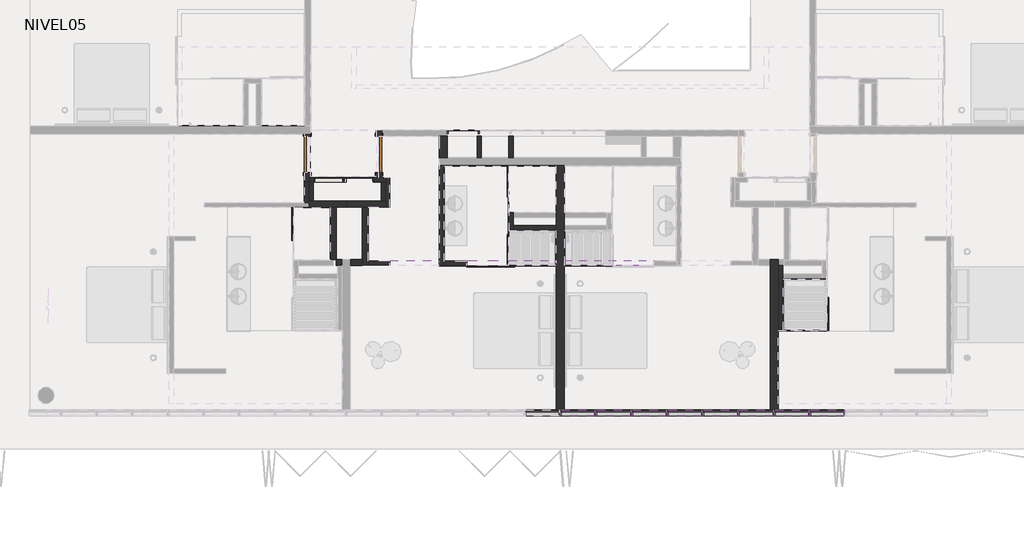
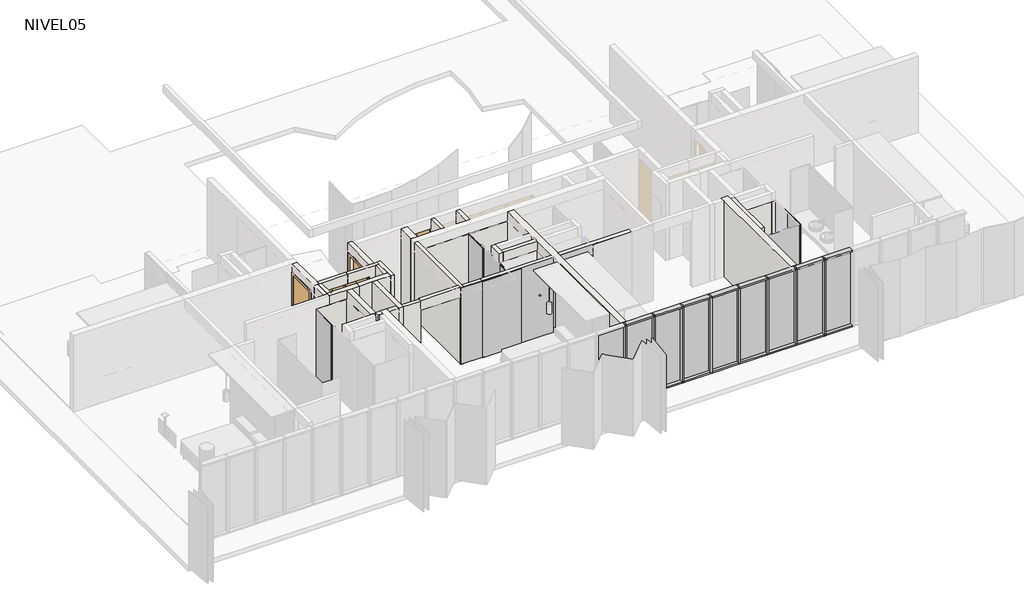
# One storey, part 2 of 8: 39 walls, 25 members, 19 plates, 5 doors.
"""IFC4 building model written with IfcOpenShell, lengths in millimetres."""

from ifc_helpers import new_model, si_unit, frame, origin, place, context, project, spatial, polyline, outline, extrude, faceted_brep, transform, mapped, element, save
from components import m_single_flush_910x_224_a4f79d59, m_single_flush_910x_224_d199ccfa, puerta_closet_shaft_75_x_232cm_9b8c6cb1, puerta_closet_shaft_75_x_232cm_f7ce9964, puerta_closet_shaft_80_x_232cm_003f94e8, rectangular_mullion_50_x_150mm_324a6438, rectangular_mullion_50_x_150mm_33c2bde1, panel_corredera_cr_panel_corredera_e449a94a, panel_corredera_cr_panel_corredera_4796692a, panel_corredera_cr_panel_corredera_42e60b83, panel_corredera_cr_panel_corredera_db6cee18, panel_corredera_cr_panel_corredera_0b5135b5, system_panel_cr_shower_b944c943, system_panel_cr_shower_306accba, system_panel_cr_shower_c062e60c, system_panel_cr_shower_685ec66b, system_panel_cr_shower_d0c7b907, system_panel_glazed_6ccc6dc1

model = new_model("IFC4")

# Units and contexts
model_context = context("Model", 3, world=origin())
ifc_project = project(units=[si_unit("LENGTHUNIT", "METRE", prefix="MILLI")], contexts=[model_context])

# Site, building, storey
site = spatial("IfcSite", under=ifc_project)
building = spatial("IfcBuilding", under=site)
storey = spatial("IfcBuildingStorey", under=building, Name="NIVEL05", Elevation=10660.0)

# Doors
placement = place(None, origin())
m_single_flush_910x_224_shape = m_single_flush_910x_224_a4f79d59(model_context)
element("IfcDoor", 1, ObjectType="M_Single-Flush : 910x 224", at=placement, inside=storey, context=model_context, shape_type="MappedRepresentation", body=[
    mapped(m_single_flush_910x_224_shape, transform((-13568.5934748, -883.5860759, 10660.0), x_axis=(0.0, 1.0, 0.0), y_axis=(-1.0, 0.0, 0.0), z_axis=(0.0, 0.0, 1.0))),
])
m_single_flush_910x_224_2_shape = m_single_flush_910x_224_d199ccfa(model_context)
element("IfcDoor", 2, ObjectType="M_Single-Flush : 910x 224", at=placement, inside=storey, context=model_context, shape_type="MappedRepresentation", body=[
    mapped(m_single_flush_910x_224_2_shape, transform((-11758.5934748, -883.5860759, 10660.0), x_axis=(0.0, 1.0, 0.0), y_axis=(-1.0, 0.0, 0.0), z_axis=(0.0, 0.0, 1.0))),
])
puerta_closet_shaft_75_x_232cm_shape = puerta_closet_shaft_75_x_232cm_9b8c6cb1(model_context)
element("IfcDoor", 3, ObjectType="PUERTA CLOSET SHAFT : 75 x 232cm", at=placement, inside=storey, context=model_context, shape_type="MappedRepresentation", body=[
    mapped(puerta_closet_shaft_75_x_232cm_shape, transform((-11887.061904, -1521.0860759, 10660.0), x_axis=(1.0, 0.0, 0.0), y_axis=(0.0, 1.0, 0.0), z_axis=(0.0, 0.0, 1.0))),
])
puerta_closet_shaft_75_x_232cm_2_shape = puerta_closet_shaft_75_x_232cm_f7ce9964(model_context)
element("IfcDoor", 4, ObjectType="PUERTA CLOSET SHAFT : 75 x 232cm", at=placement, inside=storey, context=model_context, shape_type="MappedRepresentation", body=[
    mapped(puerta_closet_shaft_75_x_232cm_2_shape, transform((-13420.1250457, -1521.0860759, 10660.0), x_axis=(-1.0, 0.0, 0.0), y_axis=(0.0, -1.0, 0.0), z_axis=(0.0, 0.0, 1.0))),
])
puerta_closet_shaft_80_x_232cm_shape = puerta_closet_shaft_80_x_232cm_003f94e8(model_context)
element("IfcDoor", 5, ObjectType="PUERTA CLOSET SHAFT : 80 x 232cm", at=placement, inside=storey, context=model_context, shape_type="MappedRepresentation", body=[
    mapped(puerta_closet_shaft_80_x_232cm_shape, transform((-8492.061904, -341.0860759, 10660.0), x_axis=(1.0, 0.0, 0.0), y_axis=(0.0, 1.0, 0.0), z_axis=(0.0, 0.0, 1.0))),
])

# Members
rectangular_mullion_50_x_150mm_shape = rectangular_mullion_50_x_150mm_324a6438(model_context)
element("IfcMember", 6, ObjectType="Rectangular Mullion : 50 x 150mm", at=placement, inside=storey, context=model_context, shape_type="MappedRepresentation", body=[
    mapped(rectangular_mullion_50_x_150mm_shape, transform((-858.5934748, -7416.0860759, 13210.0), x_axis=(0.0, 0.0, 1.0), y_axis=(0.0, 1.0, 0.0), z_axis=(-1.0, 0.0, 0.0))),
])
element("IfcMember", 7, ObjectType="Rectangular Mullion : 50 x 150mm", at=placement, inside=storey, context=model_context, shape_type="MappedRepresentation", body=[
    mapped(rectangular_mullion_50_x_150mm_shape, transform((-1758.5934748, -7416.0860759, 13210.0), x_axis=(0.0, 0.0, 1.0), y_axis=(0.0, 1.0, 0.0), z_axis=(-1.0, 0.0, 0.0))),
])
element("IfcMember", 8, ObjectType="Rectangular Mullion : 50 x 150mm", at=placement, inside=storey, context=model_context, shape_type="MappedRepresentation", body=[
    mapped(rectangular_mullion_50_x_150mm_shape, transform((-2658.5934748, -7416.0860759, 13210.0), x_axis=(0.0, 0.0, 1.0), y_axis=(0.0, 1.0, 0.0), z_axis=(-1.0, 0.0, 0.0))),
])
element("IfcMember", 9, ObjectType="Rectangular Mullion : 50 x 150mm", at=placement, inside=storey, context=model_context, shape_type="MappedRepresentation", body=[
    mapped(rectangular_mullion_50_x_150mm_shape, transform((-3558.5934748, -7416.0860759, 13210.0), x_axis=(0.0, 0.0, 1.0), y_axis=(0.0, 1.0, 0.0), z_axis=(-1.0, 0.0, 0.0))),
])
element("IfcMember", 10, ObjectType="Rectangular Mullion : 50 x 150mm", at=placement, inside=storey, context=model_context, shape_type="MappedRepresentation", body=[
    mapped(rectangular_mullion_50_x_150mm_shape, transform((-4458.5934748, -7416.0860759, 13210.0), x_axis=(0.0, 0.0, 1.0), y_axis=(0.0, 1.0, 0.0), z_axis=(-1.0, 0.0, 0.0))),
])
element("IfcMember", 11, ObjectType="Rectangular Mullion : 50 x 150mm", at=placement, inside=storey, context=model_context, shape_type="MappedRepresentation", body=[
    mapped(rectangular_mullion_50_x_150mm_shape, transform((-5358.5934748, -7416.0860759, 13210.0), x_axis=(0.0, 0.0, 1.0), y_axis=(0.0, 1.0, 0.0), z_axis=(-1.0, 0.0, 0.0))),
])
element("IfcMember", 12, ObjectType="Rectangular Mullion : 50 x 150mm", at=placement, inside=storey, context=model_context, shape_type="MappedRepresentation", body=[
    mapped(rectangular_mullion_50_x_150mm_shape, transform((-6258.5934748, -7416.0860759, 13210.0), x_axis=(0.0, 0.0, 1.0), y_axis=(0.0, 1.0, 0.0), z_axis=(-1.0, 0.0, 0.0))),
])
element("IfcMember", 13, ObjectType="Rectangular Mullion : 50 x 150mm", at=placement, inside=storey, context=model_context, shape_type="MappedRepresentation", body=[
    mapped(rectangular_mullion_50_x_150mm_shape, transform((-7158.5934748, -7416.0860759, 13210.0), x_axis=(0.0, 0.0, 1.0), y_axis=(0.0, 1.0, 0.0), z_axis=(-1.0, 0.0, 0.0))),
])
element("IfcMember", 14, ObjectType="Rectangular Mullion : 50 x 150mm", at=placement, inside=storey, context=model_context, shape_type="MappedRepresentation", body=[
    mapped(rectangular_mullion_50_x_150mm_shape, transform((-8.5934748, -7416.0860759, 10640.0), x_axis=(0.0, 0.0, -1.0), y_axis=(0.0, 1.0, 0.0), z_axis=(1.0, 0.0, 0.0))),
])
element("IfcMember", 15, ObjectType="Rectangular Mullion : 50 x 150mm", at=placement, inside=storey, context=model_context, shape_type="MappedRepresentation", body=[
    mapped(rectangular_mullion_50_x_150mm_shape, transform((-908.5934748, -7416.0860759, 10640.0), x_axis=(0.0, 0.0, -1.0), y_axis=(0.0, 1.0, 0.0), z_axis=(1.0, 0.0, 0.0))),
])
element("IfcMember", 16, ObjectType="Rectangular Mullion : 50 x 150mm", at=placement, inside=storey, context=model_context, shape_type="MappedRepresentation", body=[
    mapped(rectangular_mullion_50_x_150mm_shape, transform((-1808.5934748, -7416.0860759, 10640.0), x_axis=(0.0, 0.0, -1.0), y_axis=(0.0, 1.0, 0.0), z_axis=(1.0, 0.0, 0.0))),
])
element("IfcMember", 17, ObjectType="Rectangular Mullion : 50 x 150mm", at=placement, inside=storey, context=model_context, shape_type="MappedRepresentation", body=[
    mapped(rectangular_mullion_50_x_150mm_shape, transform((-2708.5934748, -7416.0860759, 10640.0), x_axis=(0.0, 0.0, -1.0), y_axis=(0.0, 1.0, 0.0), z_axis=(1.0, 0.0, 0.0))),
])
element("IfcMember", 18, ObjectType="Rectangular Mullion : 50 x 150mm", at=placement, inside=storey, context=model_context, shape_type="MappedRepresentation", body=[
    mapped(rectangular_mullion_50_x_150mm_shape, transform((-3608.5934748, -7416.0860759, 10640.0), x_axis=(0.0, 0.0, -1.0), y_axis=(0.0, 1.0, 0.0), z_axis=(1.0, 0.0, 0.0))),
])
element("IfcMember", 19, ObjectType="Rectangular Mullion : 50 x 150mm", at=placement, inside=storey, context=model_context, shape_type="MappedRepresentation", body=[
    mapped(rectangular_mullion_50_x_150mm_shape, transform((-4508.5934748, -7416.0860759, 10640.0), x_axis=(0.0, 0.0, -1.0), y_axis=(0.0, 1.0, 0.0), z_axis=(1.0, 0.0, 0.0))),
])
element("IfcMember", 20, ObjectType="Rectangular Mullion : 50 x 150mm", at=placement, inside=storey, context=model_context, shape_type="MappedRepresentation", body=[
    mapped(rectangular_mullion_50_x_150mm_shape, transform((-5408.5934748, -7416.0860759, 10640.0), x_axis=(0.0, 0.0, -1.0), y_axis=(0.0, 1.0, 0.0), z_axis=(1.0, 0.0, 0.0))),
])
element("IfcMember", 21, ObjectType="Rectangular Mullion : 50 x 150mm", at=placement, inside=storey, context=model_context, shape_type="MappedRepresentation", body=[
    mapped(rectangular_mullion_50_x_150mm_shape, transform((-6308.5934748, -7416.0860759, 10640.0), x_axis=(0.0, 0.0, -1.0), y_axis=(0.0, 1.0, 0.0), z_axis=(1.0, 0.0, 0.0))),
])
element("IfcMember", 22, ObjectType="Rectangular Mullion : 50 x 150mm", at=placement, inside=storey, context=model_context, shape_type="MappedRepresentation", body=[
    mapped(rectangular_mullion_50_x_150mm_shape, transform((-7208.5934748, -7416.0860759, 10640.0), x_axis=(0.0, 0.0, -1.0), y_axis=(0.0, 1.0, 0.0), z_axis=(1.0, 0.0, 0.0))),
])
rectangular_mullion_50_x_150mm_2_shape = rectangular_mullion_50_x_150mm_33c2bde1(model_context)
element("IfcMember", 23, ObjectType="Rectangular Mullion : 50 x 150mm", at=placement, inside=storey, context=model_context, shape_type="MappedRepresentation", body=[
    mapped(rectangular_mullion_50_x_150mm_2_shape, transform((-883.5934748, -7416.0860759, 10640.0), x_axis=(-1.0, 0.0, 0.0), y_axis=(0.0, 1.0, 0.0), z_axis=(0.0, 0.0, -1.0))),
])
element("IfcMember", 24, ObjectType="Rectangular Mullion : 50 x 150mm", at=placement, inside=storey, context=model_context, shape_type="MappedRepresentation", body=[
    mapped(rectangular_mullion_50_x_150mm_2_shape, transform((-1783.5934748, -7416.0860759, 10640.0), x_axis=(-1.0, 0.0, 0.0), y_axis=(0.0, 1.0, 0.0), z_axis=(0.0, 0.0, -1.0))),
])
element("IfcMember", 25, ObjectType="Rectangular Mullion : 50 x 150mm", at=placement, inside=storey, context=model_context, shape_type="MappedRepresentation", body=[
    mapped(rectangular_mullion_50_x_150mm_2_shape, transform((-2683.5934748, -7416.0860759, 10640.0), x_axis=(-1.0, 0.0, 0.0), y_axis=(0.0, 1.0, 0.0), z_axis=(0.0, 0.0, -1.0))),
])
element("IfcMember", 26, ObjectType="Rectangular Mullion : 50 x 150mm", at=placement, inside=storey, context=model_context, shape_type="MappedRepresentation", body=[
    mapped(rectangular_mullion_50_x_150mm_2_shape, transform((-3583.5934748, -7416.0860759, 10640.0), x_axis=(-1.0, 0.0, 0.0), y_axis=(0.0, 1.0, 0.0), z_axis=(0.0, 0.0, -1.0))),
])
element("IfcMember", 27, ObjectType="Rectangular Mullion : 50 x 150mm", at=placement, inside=storey, context=model_context, shape_type="MappedRepresentation", body=[
    mapped(rectangular_mullion_50_x_150mm_2_shape, transform((-4483.5934748, -7416.0860759, 10640.0), x_axis=(-1.0, 0.0, 0.0), y_axis=(0.0, 1.0, 0.0), z_axis=(0.0, 0.0, -1.0))),
])
element("IfcMember", 28, ObjectType="Rectangular Mullion : 50 x 150mm", at=placement, inside=storey, context=model_context, shape_type="MappedRepresentation", body=[
    mapped(rectangular_mullion_50_x_150mm_2_shape, transform((-5383.5934748, -7416.0860759, 10640.0), x_axis=(-1.0, 0.0, 0.0), y_axis=(0.0, 1.0, 0.0), z_axis=(0.0, 0.0, -1.0))),
])
element("IfcMember", 29, ObjectType="Rectangular Mullion : 50 x 150mm", at=placement, inside=storey, context=model_context, shape_type="MappedRepresentation", body=[
    mapped(rectangular_mullion_50_x_150mm_2_shape, transform((-6283.5934748, -7416.0860759, 10640.0), x_axis=(-1.0, 0.0, 0.0), y_axis=(0.0, 1.0, 0.0), z_axis=(0.0, 0.0, -1.0))),
])
element("IfcMember", 30, ObjectType="Rectangular Mullion : 50 x 150mm", at=placement, inside=storey, context=model_context, shape_type="MappedRepresentation", body=[
    mapped(rectangular_mullion_50_x_150mm_2_shape, transform((-7183.5934748, -7416.0860759, 10640.0), x_axis=(-1.0, 0.0, 0.0), y_axis=(0.0, 1.0, 0.0), z_axis=(0.0, 0.0, -1.0))),
])

# Plates
panel_corredera_cr_panel_corredera_shape = panel_corredera_cr_panel_corredera_e449a94a(model_context)
element("IfcPlate", 31, ObjectType="PANEL CORREDERA : CR_PANEL CORREDERA", at=placement, inside=storey, context=model_context, shape_type="MappedRepresentation", body=[
    mapped(panel_corredera_cr_panel_corredera_shape, transform((-13913.6434748, -2560.8259695, 10660.0), x_axis=(0.0, -1.0, 0.0), y_axis=(1.0, 0.0, 0.0), z_axis=(0.0, 0.0, 1.0))),
])
panel_corredera_cr_panel_corredera_2_shape = panel_corredera_cr_panel_corredera_4796692a(model_context)
element("IfcPlate", 32, ObjectType="PANEL CORREDERA : CR_PANEL CORREDERA", at=placement, inside=storey, context=model_context, shape_type="MappedRepresentation", body=[
    mapped(panel_corredera_cr_panel_corredera_2_shape, transform((-8483.5947993, -3371.0862189, 10660.0), x_axis=(0.0, 1.0, 0.0), y_axis=(-1.0, 0.0, 0.0), z_axis=(0.0, 0.0, 1.0))),
])
panel_corredera_cr_panel_corredera_3_shape = panel_corredera_cr_panel_corredera_42e60b83(model_context)
element("IfcPlate", 33, ObjectType="PANEL CORREDERA : CR_PANEL CORREDERA", at=placement, inside=storey, context=model_context, shape_type="MappedRepresentation", body=[
    mapped(panel_corredera_cr_panel_corredera_3_shape, transform((-453.5434748, -4991.5697221, 10660.0), x_axis=(0.0, 1.0, 0.0), y_axis=(-1.0, 0.0, 0.0), z_axis=(0.0, 0.0, 1.0))),
])
panel_corredera_cr_panel_corredera_4_shape = panel_corredera_cr_panel_corredera_db6cee18(model_context)
element("IfcPlate", 34, ObjectType="PANEL CORREDERA : CR_PANEL CORREDERA", at=placement, inside=storey, context=model_context, shape_type="MappedRepresentation", body=[
    mapped(panel_corredera_cr_panel_corredera_4_shape, transform((-8483.5947993, -1491.0860759, 10660.0), x_axis=(0.0, -1.0, 0.0), y_axis=(1.0, 0.0, 0.0), z_axis=(0.0, 0.0, 1.0))),
])
panel_corredera_cr_panel_corredera_5_shape = panel_corredera_cr_panel_corredera_0b5135b5(model_context)
element("IfcPlate", 35, ObjectType="PANEL CORREDERA : CR_PANEL CORREDERA", at=placement, inside=storey, context=model_context, shape_type="MappedRepresentation", body=[
    mapped(panel_corredera_cr_panel_corredera_5_shape, transform((-9013.5934748, -3686.0862189, 10660.0), x_axis=(1.0, 0.0, 0.0), y_axis=(0.0, 1.0, 0.0), z_axis=(0.0, 0.0, 1.0))),
])
system_panel_cr_shower_shape = system_panel_cr_shower_b944c943(model_context)
element("IfcPlate", 36, ObjectType="System Panel : CR-SHOWER", at=placement, inside=storey, context=model_context, shape_type="MappedRepresentation", body=[
    mapped(system_panel_cr_shower_shape, transform((-1068.5684748, -5336.1362189, 10660.0), x_axis=(1.0, 0.0, 0.0), y_axis=(0.0, 1.0, 0.0), z_axis=(0.0, 0.0, 1.0))),
])
system_panel_cr_shower_2_shape = system_panel_cr_shower_306accba(model_context)
element("IfcPlate", 37, ObjectType="System Panel : CR-SHOWER", at=placement, inside=storey, context=model_context, shape_type="MappedRepresentation", body=[
    mapped(system_panel_cr_shower_2_shape, transform((-9888.5934748, -3686.0862189, 10660.0), x_axis=(-1.0, 0.0, 0.0), y_axis=(0.0, -1.0, 0.0), z_axis=(0.0, 0.0, 1.0))),
])
system_panel_cr_shower_3_shape = system_panel_cr_shower_c062e60c(model_context)
element("IfcPlate", 38, ObjectType="System Panel : CR-SHOWER", at=placement, inside=storey, context=model_context, shape_type="MappedRepresentation", body=[
    mapped(system_panel_cr_shower_3_shape, transform((-8483.5947993, -2436.0861474, 10660.0), x_axis=(0.0, 1.0, 0.0), y_axis=(-1.0, 0.0, 0.0), z_axis=(0.0, 0.0, 1.0))),
])
system_panel_cr_shower_4_shape = system_panel_cr_shower_685ec66b(model_context)
element("IfcPlate", 39, ObjectType="System Panel : CR-SHOWER", at=placement, inside=storey, context=model_context, shape_type="MappedRepresentation", body=[
    mapped(system_panel_cr_shower_4_shape, transform((-6483.5934748, -3686.0862189, 10660.0), x_axis=(1.0, 0.0, 0.0), y_axis=(0.0, 1.0, 0.0), z_axis=(0.0, 0.0, 1.0))),
])
system_panel_cr_shower_5_shape = system_panel_cr_shower_d0c7b907(model_context)
element("IfcPlate", 40, ObjectType="System Panel : CR-SHOWER", at=placement, inside=storey, context=model_context, shape_type="MappedRepresentation", body=[
    mapped(system_panel_cr_shower_5_shape, transform((-7883.5934748, -3686.0862189, 10660.0), x_axis=(-1.0, 0.0, 0.0), y_axis=(0.0, -1.0, 0.0), z_axis=(0.0, 0.0, 1.0))),
])
system_panel_glazed_shape = system_panel_glazed_6ccc6dc1(model_context)
element("IfcPlate", 41, ObjectType="System Panel : Glazed", at=placement, inside=storey, context=model_context, shape_type="MappedRepresentation", body=[
    mapped(system_panel_glazed_shape, transform((-433.5934748, -7416.0860759, 10690.0), x_axis=(-1.0, 0.0, 0.0), y_axis=(0.0, -1.0, 0.0), z_axis=(0.0, 0.0, 1.0))),
])
element("IfcPlate", 42, ObjectType="System Panel : Glazed", at=placement, inside=storey, context=model_context, shape_type="MappedRepresentation", body=[
    mapped(system_panel_glazed_shape, transform((-1333.5934748, -7416.0860759, 10690.0), x_axis=(-1.0, 0.0, 0.0), y_axis=(0.0, -1.0, 0.0), z_axis=(0.0, 0.0, 1.0))),
])
element("IfcPlate", 43, ObjectType="System Panel : Glazed", at=placement, inside=storey, context=model_context, shape_type="MappedRepresentation", body=[
    mapped(system_panel_glazed_shape, transform((-2233.5934748, -7416.0860759, 10690.0), x_axis=(-1.0, 0.0, 0.0), y_axis=(0.0, -1.0, 0.0), z_axis=(0.0, 0.0, 1.0))),
])
element("IfcPlate", 44, ObjectType="System Panel : Glazed", at=placement, inside=storey, context=model_context, shape_type="MappedRepresentation", body=[
    mapped(system_panel_glazed_shape, transform((-3133.5934748, -7416.0860759, 10690.0), x_axis=(-1.0, 0.0, 0.0), y_axis=(0.0, -1.0, 0.0), z_axis=(0.0, 0.0, 1.0))),
])
element("IfcPlate", 45, ObjectType="System Panel : Glazed", at=placement, inside=storey, context=model_context, shape_type="MappedRepresentation", body=[
    mapped(system_panel_glazed_shape, transform((-4033.5934748, -7416.0860759, 10690.0), x_axis=(-1.0, 0.0, 0.0), y_axis=(0.0, -1.0, 0.0), z_axis=(0.0, 0.0, 1.0))),
])
element("IfcPlate", 46, ObjectType="System Panel : Glazed", at=placement, inside=storey, context=model_context, shape_type="MappedRepresentation", body=[
    mapped(system_panel_glazed_shape, transform((-4933.5934748, -7416.0860759, 10690.0), x_axis=(-1.0, 0.0, 0.0), y_axis=(0.0, -1.0, 0.0), z_axis=(0.0, 0.0, 1.0))),
])
element("IfcPlate", 47, ObjectType="System Panel : Glazed", at=placement, inside=storey, context=model_context, shape_type="MappedRepresentation", body=[
    mapped(system_panel_glazed_shape, transform((-5833.5934748, -7416.0860759, 10690.0), x_axis=(-1.0, 0.0, 0.0), y_axis=(0.0, -1.0, 0.0), z_axis=(0.0, 0.0, 1.0))),
])
element("IfcPlate", 48, ObjectType="System Panel : Glazed", at=placement, inside=storey, context=model_context, shape_type="MappedRepresentation", body=[
    mapped(system_panel_glazed_shape, transform((-6733.5934748, -7416.0860759, 10690.0), x_axis=(-1.0, 0.0, 0.0), y_axis=(0.0, -1.0, 0.0), z_axis=(0.0, 0.0, 1.0))),
])
element("IfcPlate", 49, ObjectType="System Panel : Glazed", at=placement, inside=storey, context=model_context, shape_type="MappedRepresentation", body=[
    mapped(system_panel_glazed_shape, transform((-7633.5934748, -7416.0860759, 10690.0), x_axis=(-1.0, 0.0, 0.0), y_axis=(0.0, -1.0, 0.0), z_axis=(0.0, 0.0, 1.0))),
])

# Walls
element("IfcWall", 50, ObjectType="SCV.TI.A.110.090.143.47.1", at=placement, inside=storey, context=model_context, shape_type="SweptSolid", body=[
    extrude(outline(polyline([(-9283.5934748, -966.0860759), (-9283.5934748, -416.0860759), (-9173.5934748, -416.0860759), (-9173.5934748, -966.0860759), (-9283.5934748, -966.0860759)])), frame((0.0, 0.0, 10640.0), z_axis=(0.0, 0.0, 1.0), x_axis=(1.0, 0.0, 0.0)), (0.0, 0.0, 1.0), 2570.0),
])
element("IfcWall", 51, ObjectType="REV-PORCELANATO_60*60", at=placement, inside=storey, context=model_context, shape_type="SweptSolid", body=[
    extrude(outline(polyline([(-7083.5934748, -3686.0862189), (-7083.5934748, -2806.0860759), (-7073.5934748, -2806.0860759), (-7073.5934748, -3686.0862189), (-7083.5934748, -3686.0862189)])), frame((0.0, 0.0, 10660.0), z_axis=(0.0, 0.0, 1.0), x_axis=(1.0, 0.0, 0.0)), (0.0, 0.0, 1.0), 2240.0),
])
element("IfcWall", 52, ObjectType="SCV.TI.A.110.090.143.47.1", at=placement, inside=storey, context=model_context, shape_type="SweptSolid", body=[
    extrude(outline(polyline([(-12033.5934748, -3571.0862189), (-11483.5934748, -3571.0862189), (-11483.5934748, -3681.0862189), (-12033.5934748, -3681.0862189), (-12033.5934748, -3571.0862189)])), frame((0.0, 0.0, 10660.0), z_axis=(0.0, 0.0, 1.0), x_axis=(1.0, 0.0, 0.0)), (0.0, 0.0, 1.0), 2550.0),
])
element("IfcWall", 53, ObjectType="SCV.TI.A.110.090.143.47.1", at=placement, inside=storey, context=model_context, shape_type="Brep", body=[
    faceted_brep([(-12589.1569667, -1466.0860759, 13210.0), (-11833.5934748, -1466.0860759, 13210.0), (-11683.5934748, -1466.0860759, 13210.0), (-11593.5934748, -1466.0860759, 13210.0), (-11593.5934748, -1466.0860759, 10660.0), (-11683.5934748, -1466.0860759, 10660.0), (-11833.5934748, -1466.0860759, 10660.0), (-11903.5934748, -1466.0860759, 10660.0), (-11903.5934748, -1466.0860759, 12900.0), (-12589.1569667, -1466.0860759, 12900.0), (-11593.5934748, -1576.0860759, 13210.0), (-11703.5934748, -1576.0860759, 13210.0), (-12589.1569667, -1576.0860759, 13210.0), (-12589.1569667, -1576.0860759, 12900.0), (-11903.5934748, -1576.0860759, 12900.0), (-11903.5934748, -1576.0860759, 10660.0), (-11593.5934748, -1576.0860759, 10660.0)], [[[0, 1, 2, 3, 4, 5, 6, 7, 8, 9]], [[10, 11, 12, 13, 14, 15, 16]], [[4, 16, 15, 7, 6, 5]], [[12, 0, 9, 13]], [[3, 2, 1, 0, 12, 11, 10]], [[8, 14, 13, 9]], [[14, 8, 7, 15]], [[4, 3, 10, 16]]]),
])
element("IfcWall", 54, ObjectType="SCV.TI.A.150.120.212.47.1", at=placement, inside=storey, context=model_context, shape_type="Brep", body=[
    faceted_brep([(-11833.5934748, -1466.0860759, 13210.0), (-11833.5934748, -266.0860759, 13210.0), (-11833.5934748, -266.0860759, 10660.0), (-11833.5934748, -426.0860759, 10660.0), (-11833.5934748, -426.0860759, 12860.0), (-11833.5934748, -1341.0860759, 12860.0), (-11833.5934748, -1341.0860759, 10660.0), (-11833.5934748, -1466.0860759, 10660.0), (-11683.5934748, -266.0860759, 13210.0), (-11683.5934748, -416.0860759, 13210.0), (-11683.5934748, -1466.0860759, 13210.0), (-11683.5934748, -1466.0860759, 10660.0), (-11683.5934748, -1341.0860759, 10660.0), (-11683.5934748, -1341.0860759, 12860.0), (-11683.5934748, -426.0860759, 12860.0), (-11683.5934748, -426.0860759, 10660.0), (-11683.5934748, -266.0860759, 10660.0)], [[[0, 1, 2, 3, 4, 5, 6, 7]], [[8, 9, 10, 11, 12, 13, 14, 15, 16]], [[2, 16, 15, 3]], [[11, 7, 6, 12]], [[1, 0, 10, 9, 8]], [[4, 14, 13, 5]], [[5, 13, 12, 6]], [[14, 4, 3, 15]], [[2, 1, 8, 16]], [[0, 7, 11, 10]]]),
])
element("IfcWall", 55, ObjectType="SCV.TI.A.110.090.143.47.1", at=placement, inside=storey, context=model_context, shape_type="Brep", body=[
    faceted_brep([(-10233.5934748, -1166.0860759, 10640.0), (-10233.5934748, -3686.0862189, 10640.0), (-10233.5934748, -3686.0862189, 12910.0), (-10233.5934748, -3686.0862189, 13210.0), (-10233.5934748, -1166.0860759, 13210.0), (-10123.5934748, -1166.0860759, 10640.0), (-10123.5934748, -1166.0860759, 13210.0), (-10123.5934748, -3576.0862189, 13210.0), (-10123.5934748, -3686.0862189, 13210.0), (-10123.5934748, -3686.0862189, 10660.0), (-10123.5934748, -3686.0862189, 10640.0)], [[[0, 1, 2, 3, 4]], [[5, 6, 7, 8, 9, 10]], [[1, 0, 5, 10]], [[4, 3, 8, 7, 6]], [[0, 4, 6, 5]], [[1, 10, 9, 8, 3, 2]]]),
])
element("IfcWall", 56, ObjectType="SCV.TI.A.150.120.212.47.1", at=placement, inside=storey, context=model_context, shape_type="Brep", body=[
    faceted_brep([(-11593.5934748, -2066.0860759, 10660.0), (-12583.5934748, -2066.0860759, 10660.0), (-12583.5934748, -2066.0860759, 13210.0), (-11593.5934748, -2066.0860759, 13210.0), (-11593.5934748, -2216.0860759, 10660.0), (-11593.5934748, -2216.0860759, 13210.0), (-12033.5934748, -2216.0860759, 13210.0), (-12183.5934748, -2216.0860759, 13210.0), (-12583.5934748, -2216.0860759, 13210.0), (-12583.5934748, -2216.0860759, 10660.0), (-12183.5934748, -2216.0860759, 10660.0), (-12033.5934748, -2216.0860759, 10660.0)], [[[0, 1, 2, 3]], [[4, 5, 6, 7, 8, 9, 10, 11]], [[1, 0, 4, 11, 10, 9]], [[2, 1, 9, 8]], [[3, 2, 8, 7, 6, 5]], [[0, 3, 5, 4]]]),
])
element("IfcWall", 57, ObjectType="SCV.TI.A.110.090.143.47.1", at=placement, inside=storey, context=model_context, shape_type="Brep", body=[
    faceted_brep([(-11593.5934748, -1466.0860759, 10640.0), (-11593.5934748, -2216.0860759, 10640.0), (-11593.5934748, -2216.0860759, 10660.0), (-11593.5934748, -2216.0860759, 13210.0), (-11593.5934748, -2066.0860759, 13210.0), (-11593.5934748, -1576.0860759, 13210.0), (-11593.5934748, -1466.0860759, 13210.0), (-11593.5934748, -1466.0860759, 10660.0), (-11483.5934748, -1466.0860759, 10640.0), (-11483.5934748, -1466.0860759, 13210.0), (-11483.5934748, -2216.0860759, 13210.0), (-11483.5934748, -2216.0860759, 10640.0)], [[[0, 1, 2, 3, 4, 5, 6, 7]], [[8, 9, 10, 11]], [[1, 0, 8, 11]], [[6, 5, 4, 3, 10, 9]], [[3, 2, 1, 11, 10]], [[0, 7, 6, 9, 8]]]),
])
element("IfcWall", 58, ObjectType="SCV.TI.A.120.120.122.46.2", at=placement, inside=storey, context=model_context, shape_type="SweptSolid", body=[
    extrude(outline(polyline([(-8363.5047394, -2676.0860759), (-7283.5934748, -2676.0860759), (-7283.5934748, -2796.0860759), (-8363.5047394, -2796.0860759), (-8363.5047394, -2676.0860759)])), frame((0.0, 0.0, 10660.0), z_axis=(0.0, 0.0, 1.0), x_axis=(1.0, 0.0, 0.0)), (0.0, 0.0, 1.0), 2550.0),
])
element("IfcWall", 59, ObjectType="SCV.TI.A.120.120.122.46.2", at=placement, inside=storey, context=model_context, shape_type="Brep", body=[
    faceted_brep([(-8363.5047394, -2796.0860759, 10660.0), (-8363.5047394, -2676.0860759, 10660.0), (-8363.5047394, -2476.0860759, 10660.0), (-8363.5047394, -2356.0860759, 10660.0), (-8363.5047394, -2356.0860759, 13210.0), (-8363.5047394, -2476.0860759, 13210.0), (-8363.5047394, -2676.0860759, 13210.0), (-8363.5047394, -2796.0860759, 13210.0), (-8483.5047394, -2796.0860759, 10660.0), (-8483.5047394, -2796.0860759, 13210.0), (-8483.5047394, -2356.0860759, 13210.0), (-8483.5047394, -2356.0860759, 10660.0)], [[[0, 1, 2, 3, 4, 5, 6, 7]], [[8, 9, 10, 11]], [[3, 2, 1, 0, 8, 11]], [[7, 6, 5, 4, 10, 9]], [[4, 3, 11, 10]], [[0, 7, 9, 8]]]),
])
element("IfcWall", 60, ObjectType="SCV.TI.A.110.090.143.47.1", at=placement, inside=storey, context=model_context, shape_type="Brep", body=[
    faceted_brep([(-9543.5934748, -3576.0862189, 10660.0), (-10123.5934748, -3576.0862189, 10660.0), (-10123.5934748, -3576.0862189, 13210.0), (-9543.5934748, -3576.0862189, 13210.0), (-9543.5934748, -3686.0862189, 10660.0), (-9543.5934748, -3686.0862189, 12910.0), (-9543.5934748, -3686.0862189, 13210.0), (-10123.5934748, -3686.0862189, 13210.0), (-10123.5934748, -3686.0862189, 10660.0)], [[[0, 1, 2, 3]], [[4, 5, 6, 7, 8]], [[1, 0, 4, 8]], [[3, 2, 7, 6]], [[0, 3, 6, 5, 4]], [[1, 8, 7, 2]]]),
])
element("IfcWall", 61, ObjectType="REV-PORCELANATO_60*60", at=placement, inside=storey, context=model_context, shape_type="Brep", body=[
    faceted_brep([(-9543.5934748, -3586.0862189, 10660.0), (-10113.5934748, -3586.0862189, 10660.0), (-10123.5934748, -3586.0862189, 10660.0), (-10123.5934748, -3586.0862189, 12900.0), (-10113.5934748, -3586.0862189, 12900.0), (-9543.5934748, -3586.0862189, 12900.0), (-9543.5934748, -3596.0862189, 10660.0), (-9543.5934748, -3596.0862189, 12900.0), (-10123.5934748, -3596.0862189, 12900.0), (-10123.5934748, -3596.0862189, 10660.0)], [[[0, 1, 2, 3, 4, 5]], [[6, 7, 8, 9]], [[2, 1, 0, 6, 9]], [[5, 4, 3, 8, 7]], [[0, 5, 7, 6]], [[3, 2, 9, 8]]]),
])
element("IfcWall", 62, ObjectType="REV-PORCELANATO_60*60", at=placement, inside=storey, context=model_context, shape_type="Brep", body=[
    faceted_brep([(-10113.5934748, -3586.0862189, 10660.0), (-10113.5934748, -1176.0860759, 10660.0), (-10113.5934748, -1166.0860759, 10660.0), (-10113.5934748, -1166.0860759, 12900.0), (-10113.5934748, -1176.0860759, 12900.0), (-10113.5934748, -3586.0862189, 12900.0), (-10123.5934748, -3586.0862189, 10660.0), (-10123.5934748, -3586.0862189, 12900.0), (-10123.5934748, -1166.0860759, 12900.0), (-10123.5934748, -1166.0860759, 10660.0)], [[[0, 1, 2, 3, 4, 5]], [[6, 7, 8, 9]], [[2, 1, 0, 6, 9]], [[5, 4, 3, 8, 7]], [[3, 2, 9, 8]], [[0, 5, 7, 6]]]),
])
element("IfcWall", 63, ObjectType="REV-PORCELANATO_60*60", at=placement, inside=storey, context=model_context, shape_type="Brep", body=[
    faceted_brep([(-10113.5934748, -1176.0860759, 10660.0), (-7293.5934748, -1176.0860759, 10660.0), (-7283.5934748, -1176.0860759, 10660.0), (-7283.5934748, -1176.0860759, 12900.0), (-7293.5934748, -1176.0860759, 12900.0), (-10113.5934748, -1176.0860759, 12900.0), (-10113.5934748, -1166.0860759, 10660.0), (-10113.5934748, -1166.0860759, 12900.0), (-7283.5934748, -1166.0860759, 12900.0), (-7283.5934748, -1166.0860759, 10660.0)], [[[0, 1, 2, 3, 4, 5]], [[6, 7, 8, 9]], [[2, 1, 0, 6, 9]], [[5, 4, 3, 8, 7]], [[3, 2, 9, 8]], [[0, 5, 7, 6]]]),
])
element("IfcWall", 64, ObjectType="REV-PORCELANATO_60*60", at=placement, inside=storey, context=model_context, shape_type="SweptSolid", body=[
    extrude(outline(polyline([(-7293.5934748, -3686.0862189), (-7293.5934748, -2806.0860759), (-7283.5934748, -2806.0860759), (-7283.5934748, -3686.0862189), (-7293.5934748, -3686.0862189)])), frame((0.0, 0.0, 10660.0), z_axis=(0.0, 0.0, 1.0), x_axis=(1.0, 0.0, 0.0)), (0.0, 0.0, 1.0), 2240.0),
])
element("IfcWall", 65, ObjectType="SCV.TI.A.110.090.143.47.1", at=placement, inside=storey, context=model_context, shape_type="Brep", body=[
    faceted_brep([(-13493.5934748, -1576.0860759, 10640.0), (-13423.5934748, -1576.0860759, 10640.0), (-12589.1569667, -1576.0860759, 10640.0), (-12589.1569667, -1576.0860759, 10660.0), (-13403.5934748, -1576.0860759, 10660.0), (-13403.5934748, -1576.0860759, 12900.0), (-12589.1569667, -1576.0860759, 12900.0), (-12589.1569667, -1576.0860759, 13210.0), (-13423.5934748, -1576.0860759, 13210.0), (-13493.5934748, -1576.0860759, 13210.0), (-12589.1569667, -1466.0860759, 10640.0), (-13493.5934748, -1466.0860759, 10640.0), (-13493.5934748, -1466.0860759, 13210.0), (-12589.1569667, -1466.0860759, 13210.0), (-12589.1569667, -1466.0860759, 12900.0), (-13403.5934748, -1466.0860759, 12900.0), (-13403.5934748, -1466.0860759, 10660.0), (-12589.1569667, -1466.0860759, 10660.0)], [[[0, 1, 2, 3, 4, 5, 6, 7, 8, 9]], [[10, 11, 12, 13, 14, 15, 16, 17]], [[2, 1, 0, 11, 10]], [[2, 10, 17, 3]], [[13, 7, 6, 14]], [[9, 8, 7, 13, 12]], [[5, 15, 14, 6]], [[16, 4, 3, 17]], [[4, 16, 15, 5]], [[0, 9, 12, 11]]]),
])
element("IfcWall", 66, ObjectType="SCV.TI.A.150.120.212.47.1", at=placement, inside=storey, context=model_context, shape_type="Brep", body=[
    faceted_brep([(-13643.5934748, -366.0860759, 10640.0), (-13643.5934748, -1576.0860759, 10640.0), (-13643.5934748, -1576.0860759, 13210.0), (-13643.5934748, -366.0860759, 13210.0), (-13643.5934748, -1341.0860759, 10660.0), (-13643.5934748, -426.0860759, 10660.0), (-13643.5934748, -426.0860759, 12860.0), (-13643.5934748, -1341.0860759, 12860.0), (-13493.5934748, -1576.0860759, 10640.0), (-13493.5934748, -1466.0860759, 10640.0), (-13493.5934748, -366.0860759, 10640.0), (-13493.5934748, -366.0860759, 13210.0), (-13493.5934748, -1466.0860759, 13210.0), (-13493.5934748, -1576.0860759, 13210.0), (-13493.5934748, -426.0860759, 10660.0), (-13493.5934748, -1341.0860759, 10660.0), (-13493.5934748, -1341.0860759, 12860.0), (-13493.5934748, -426.0860759, 12860.0), (-13533.5934748, -1576.0860759, 10640.0), (-13533.5934748, -1576.0860759, 13210.0)], [[[0, 1, 2, 3], [4, 5, 6, 7]], [[8, 9, 10, 11, 12, 13], [14, 15, 16, 17]], [[1, 0, 10, 9, 8, 18]], [[3, 2, 19, 13, 12, 11]], [[4, 15, 14, 5]], [[6, 17, 16, 7]], [[15, 4, 7, 16]], [[17, 6, 5, 14]], [[2, 1, 18, 8, 13, 19]], [[0, 3, 11, 10]]]),
])
element("IfcWall", 67, ObjectType="SCV.TI.A.150.120.212.47.1", at=placement, inside=storey, context=model_context, shape_type="Brep", body=[
    faceted_brep([(-13533.5934748, -2216.0860759, 10640.0), (-12983.5934748, -2216.0860759, 10640.0), (-12833.5934748, -2216.0860759, 10640.0), (-12583.5934748, -2216.0860759, 10640.0), (-12583.5934748, -2216.0860759, 13210.0), (-12833.5934748, -2216.0860759, 13210.0), (-12983.5934748, -2216.0860759, 13210.0), (-13533.5934748, -2216.0860759, 13210.0), (-13533.5934748, -2066.0860759, 10640.0), (-13533.5934748, -2066.0860759, 13210.0), (-12583.5934748, -2066.0860759, 13210.0), (-12583.5934748, -2066.0860759, 10640.0), (-13533.5934748, -2106.0860759, 10640.0), (-13533.5934748, -2106.0860759, 13210.0)], [[[0, 1, 2, 3, 4, 5, 6, 7]], [[8, 9, 10, 11]], [[3, 2, 1, 0, 12, 8, 11]], [[4, 3, 11, 10]], [[7, 6, 5, 4, 10, 9, 13]], [[0, 7, 13, 9, 8, 12]]]),
])
element("IfcWall", 68, ObjectType="REV-PORCELANATO_60*60", at=placement, inside=storey, context=model_context, shape_type="Brep", body=[
    faceted_brep([(-1553.5934748, -5336.1362189, 10660.0), (-1553.5934748, -4036.0862189, 10660.0), (-1553.5934748, -4026.0862189, 10660.0), (-1553.5934748, -4026.0862189, 12920.0), (-1553.5934748, -4036.0862189, 12920.0), (-1553.5934748, -5336.1362189, 12920.0), (-1563.5934748, -5336.1362189, 10660.0), (-1563.5934748, -5336.1362189, 12920.0), (-1563.5934748, -4026.0862189, 12920.0), (-1563.5934748, -4026.0862189, 10660.0)], [[[0, 1, 2, 3, 4, 5]], [[6, 7, 8, 9]], [[2, 1, 0, 6, 9]], [[5, 4, 3, 8, 7]], [[0, 5, 7, 6]], [[3, 2, 9, 8]]]),
])
element("IfcWall", 69, ObjectType="REV-PORCELANATO_60*60", at=placement, inside=storey, context=model_context, shape_type="SweptSolid", body=[
    extrude(outline(polyline([(-453.5434748, -4036.0862189), (-1553.5934748, -4036.0862189), (-1553.5934748, -4026.0862189), (-453.5434748, -4026.0862189), (-453.5434748, -4036.0862189)])), frame((0.0, 0.0, 10660.0), z_axis=(0.0, 0.0, 1.0), x_axis=(1.0, 0.0, 0.0)), (0.0, 0.0, 1.0), 2260.0),
])
element("IfcWall", 70, ObjectType="REV-PORCELANATO_60*60", at=placement, inside=storey, context=model_context, shape_type="SweptSolid", body=[
    extrude(outline(polyline([(-13913.6434748, -2216.0860759), (-12993.5934748, -2216.0860759), (-12993.5934748, -2226.0860759), (-13913.6434748, -2226.0860759), (-13913.6434748, -2216.0860759)])), frame((0.0, 0.0, 10660.0), z_axis=(0.0, 0.0, 1.0), x_axis=(1.0, 0.0, 0.0)), (0.0, 0.0, 1.0), 2260.0),
])
element("IfcWall", 71, ObjectType="REV-PORCELANATO_60*60", at=placement, inside=storey, context=model_context, shape_type="Brep", body=[
    faceted_brep([(-12983.5934748, -3556.0862189, 10660.0), (-12983.5934748, -2216.0860759, 10660.0), (-12983.5934748, -2216.0860759, 12920.0), (-12983.5934748, -3556.0862189, 12920.0), (-12993.5934748, -3556.0862189, 10660.0), (-12993.5934748, -3556.0862189, 12920.0), (-12993.5934748, -2226.0860759, 12920.0), (-12993.5934748, -2216.0860759, 12920.0), (-12993.5934748, -2216.0860759, 10660.0), (-12993.5934748, -2226.0860759, 10660.0)], [[[0, 1, 2, 3]], [[4, 5, 6, 7, 8, 9]], [[1, 0, 4, 9, 8]], [[3, 2, 7, 6, 5]], [[2, 1, 8, 7]], [[0, 3, 5, 4]]]),
])
element("IfcWall", 72, ObjectType="SCV.TI.A.110.090.143.47.1", at=placement, inside=storey, context=model_context, shape_type="Brep", body=[
    faceted_brep([(-11703.5934748, -1576.0860759, 10640.0), (-11703.5934748, -2066.0860759, 10640.0), (-11703.5934748, -2066.0860759, 13210.0), (-11703.5934748, -1576.0860759, 13210.0), (-11593.5934748, -1576.0860759, 10640.0), (-11593.5934748, -1576.0860759, 10660.0), (-11593.5934748, -1576.0860759, 13210.0), (-11593.5934748, -2066.0860759, 13210.0), (-11593.5934748, -2066.0860759, 10640.0)], [[[0, 1, 2, 3]], [[4, 5, 6, 7, 8]], [[1, 0, 4, 8]], [[2, 1, 8, 7]], [[3, 2, 7, 6]], [[0, 3, 6, 5, 4]]]),
])
element("IfcWall", 73, ObjectType="SCV.TI.A.110.090.143.47.1", at=placement, inside=storey, context=model_context, shape_type="Brep", body=[
    faceted_brep([(-13643.5934748, -1576.0860759, 10640.0), (-13643.5934748, -2106.0860759, 10640.0), (-13643.5934748, -2106.0860759, 13210.0), (-13643.5934748, -1576.0860759, 13210.0), (-13533.5934748, -1576.0860759, 10640.0), (-13533.5934748, -1576.0860759, 13210.0), (-13533.5934748, -2066.0860759, 13210.0), (-13533.5934748, -2106.0860759, 13210.0), (-13533.5934748, -2106.0860759, 10640.0), (-13533.5934748, -2066.0860759, 10640.0)], [[[0, 1, 2, 3]], [[4, 5, 6, 7, 8, 9]], [[1, 0, 4, 9, 8]], [[3, 2, 7, 6, 5]], [[0, 3, 5, 4]], [[2, 1, 8, 7]]]),
])
element("IfcWall", 74, ObjectType="SCV.TI.A.110.090.143.47.1", at=placement, inside=storey, context=model_context, shape_type="Brep", body=[
    faceted_brep([(-13533.5934748, -1576.0860759, 10640.0), (-13533.5934748, -2113.0860759, 10640.0), (-13533.5934748, -2113.0860759, 13210.0), (-13533.5934748, -1576.0860759, 13210.0), (-13423.5934748, -1576.0860759, 10640.0), (-13423.5934748, -1576.0860759, 13210.0), (-13423.5934748, -2113.0860759, 13210.0), (-13423.5934748, -2113.0860759, 10640.0), (-13493.5934748, -1576.0860759, 10640.0), (-13493.5934748, -1576.0860759, 13210.0)], [[[0, 1, 2, 3]], [[4, 5, 6, 7]], [[1, 0, 8, 4, 7]], [[2, 1, 7, 6]], [[3, 2, 6, 5, 9]], [[0, 3, 9, 5, 4, 8]]]),
])
element("IfcWall", 75, ObjectType="SCV.TI.A.110.090.143.47.1", at=placement, inside=storey, context=model_context, shape_type="SweptSolid", body=[
    extrude(outline(polyline([(-8483.5934748, -966.0860759), (-8483.5934748, -416.0860759), (-8373.5934748, -416.0860759), (-8373.5934748, -966.0860759), (-8483.5934748, -966.0860759)])), frame((0.0, 0.0, 10640.0), z_axis=(0.0, 0.0, 1.0), x_axis=(1.0, 0.0, 0.0)), (0.0, 0.0, 1.0), 2570.0),
])
element("IfcWall", 76, ObjectType="SCV.TI.A.120.120.122.46.2", at=placement, inside=storey, context=model_context, shape_type="Brep", body=[
    faceted_brep([(-1683.5934748, -3686.0862189, 10640.0), (-1683.5934748, -5336.1362189, 10640.0), (-1683.5934748, -5336.1362189, 13210.0), (-1683.5934748, -3686.0862189, 13210.0), (-1563.5934748, -3686.0862189, 10640.0), (-1563.5934748, -3686.0862189, 13210.0), (-1563.5934748, -3906.0862189, 13210.0), (-1563.5934748, -4026.0862189, 13210.0), (-1563.5934748, -5336.1362189, 13210.0), (-1563.5934748, -5336.1362189, 10640.0), (-1563.5934748, -4026.0862189, 10640.0), (-1563.5934748, -3906.0862189, 10640.0)], [[[0, 1, 2, 3]], [[4, 5, 6, 7, 8, 9, 10, 11]], [[1, 0, 4, 11, 10, 9]], [[2, 1, 9, 8]], [[3, 2, 8, 7, 6, 5]], [[0, 3, 5, 4]]]),
])
element("IfcWall", 77, ObjectType="SCV.TI.A.150.120.212.47.1", at=placement, inside=storey, context=model_context, shape_type="SweptSolid", body=[
    extrude(outline(polyline([(-12833.5934748, -2216.0860759), (-12833.5934748, -3536.0862189), (-12983.5934748, -3536.0862189), (-12983.5934748, -2216.0860759), (-12833.5934748, -2216.0860759)])), frame((0.0, 0.0, 10640.0), z_axis=(0.0, 0.0, 1.0), x_axis=(1.0, 0.0, 0.0)), (0.0, 0.0, 1.0), 2570.0),
])
element("IfcWall", 78, ObjectType="SCV.TI.A.150.120.212.47.1", at=placement, inside=storey, context=model_context, shape_type="Brep", body=[
    faceted_brep([(-12833.5934748, -3686.0862189, 10640.0), (-12803.5934748, -3686.0862189, 10640.0), (-12683.5934748, -3686.0862189, 10640.0), (-12683.5934748, -3686.0862189, 13210.0), (-12803.5934748, -3686.0862189, 13210.0), (-12833.5934748, -3686.0862189, 13210.0), (-12833.5934748, -3536.0862189, 10640.0), (-12833.5934748, -3536.0862189, 13210.0), (-12683.5934748, -3536.0862189, 13210.0), (-12683.5934748, -3536.0862189, 10640.0)], [[[0, 1, 2, 3, 4, 5]], [[6, 7, 8, 9]], [[2, 1, 0, 6, 9]], [[3, 2, 9, 8]], [[5, 4, 3, 8, 7]], [[0, 5, 7, 6]]]),
])
element("IfcWall", 79, ObjectType="SCV.TI.A.150.120.212.47.1", at=placement, inside=storey, context=model_context, shape_type="Brep", body=[
    faceted_brep([(-12183.5934748, -2216.0860759, 10660.0), (-12183.5934748, -3536.0862189, 10660.0), (-12183.5934748, -3681.0862189, 10660.0), (-12183.5934748, -3681.0862189, 13210.0), (-12183.5934748, -3536.0862189, 13210.0), (-12183.5934748, -2216.0860759, 13210.0), (-12033.5934748, -2216.0860759, 10660.0), (-12033.5934748, -2216.0860759, 13210.0), (-12033.5934748, -3571.0862189, 13210.0), (-12033.5934748, -3681.0862189, 13210.0), (-12033.5934748, -3681.0862189, 10660.0), (-12033.5934748, -3571.0862189, 10660.0)], [[[0, 1, 2, 3, 4, 5]], [[6, 7, 8, 9, 10, 11]], [[2, 1, 0, 6, 11, 10]], [[5, 4, 3, 9, 8, 7]], [[3, 2, 10, 9]], [[0, 5, 7, 6]]]),
])
element("IfcWall", 80, ObjectType="SCV.TI.A.150.120.212.47.1", at=placement, inside=storey, context=model_context, shape_type="Brep", body=[
    faceted_brep([(-12183.5934748, -3536.0862189, 10660.0), (-12483.5934748, -3536.0862189, 10660.0), (-12483.5934748, -3536.0862189, 13210.0), (-12183.5934748, -3536.0862189, 13210.0), (-12183.5934748, -3686.0862189, 10660.0), (-12183.5934748, -3686.0862189, 13210.0), (-12483.5934748, -3686.0862189, 13210.0), (-12483.5934748, -3686.0862189, 10660.0), (-12183.5934748, -3681.0862189, 10660.0), (-12183.5934748, -3681.0862189, 13210.0)], [[[0, 1, 2, 3]], [[4, 5, 6, 7]], [[1, 0, 8, 4, 7]], [[3, 2, 6, 5, 9]], [[2, 1, 7, 6]], [[0, 3, 9, 5, 4, 8]]]),
])
element("IfcWall", 81, ObjectType="REV-PORCELANATO_60*60", at=placement, inside=storey, context=model_context, shape_type="Brep", body=[
    faceted_brep([(-13643.5934748, -156.0860759, 10680.0), (-14723.5934748, -156.0860759, 10680.0), (-14733.5934748, -156.0860759, 10680.0), (-14733.5934748, -156.0860759, 12920.0), (-14723.5934748, -156.0860759, 12920.0), (-13643.5934748, -156.0860759, 12920.0), (-13643.5934748, -166.0860759, 10680.0), (-13643.5934748, -166.0860759, 12920.0), (-14733.5934748, -166.0860759, 12920.0), (-14733.5934748, -166.0860759, 10680.0)], [[[0, 1, 2, 3, 4, 5]], [[6, 7, 8, 9]], [[2, 1, 0, 6, 9]], [[5, 4, 3, 8, 7]], [[3, 2, 9, 8]], [[0, 5, 7, 6]]]),
])
element("IfcWall", 82, ObjectType="REV-PORCELANATO_60*60", at=placement, inside=storey, context=model_context, shape_type="SweptSolid", body=[
    extrude(outline(polyline([(-16793.5934748, -156.0860759), (-15183.5934748, -156.0860759), (-15183.5934748, -166.0860759), (-16793.5934748, -166.0860759), (-16793.5934748, -156.0860759)])), frame((0.0, 0.0, 10660.0), z_axis=(0.0, 0.0, 1.0), x_axis=(1.0, 0.0, 0.0)), (0.0, 0.0, 1.0), 2260.0),
])
element("IfcWall", 83, ObjectType="HA-200mm", at=placement, inside=storey, context=model_context, shape_type="Brep", body=[
    faceted_brep([(-7283.5934748, -1166.0860759, 10640.0), (-7283.5934748, -7341.0860759, 10640.0), (-7283.5934748, -7341.0860759, 13210.0), (-7283.5934748, -3686.0862189, 13210.0), (-7283.5934748, -3566.0862189, 13210.0), (-7283.5934748, -2796.0860759, 13210.0), (-7283.5934748, -2676.0860759, 13210.0), (-7283.5934748, -2476.0860759, 13210.0), (-7283.5934748, -2356.0860759, 13210.0), (-7283.5934748, -1166.0860759, 13210.0), (-7083.5934748, -1166.0860759, 10640.0), (-7083.5934748, -1166.0860759, 13210.0), (-7083.5934748, -2356.0860759, 13210.0), (-7083.5934748, -2476.0860759, 13210.0), (-7083.5934748, -2676.0860759, 13210.0), (-7083.5934748, -2796.0860759, 13210.0), (-7083.5934748, -3566.0862189, 13210.0), (-7083.5934748, -3686.0862189, 13210.0), (-7083.5934748, -7341.0860759, 13210.0), (-7083.5934748, -7341.0860759, 10640.0)], [[[0, 1, 2, 3, 4, 5, 6, 7, 8, 9]], [[10, 11, 12, 13, 14, 15, 16, 17, 18, 19]], [[1, 0, 10, 19]], [[2, 1, 19, 18]], [[9, 8, 7, 6, 5, 4, 3, 2, 18, 17, 16, 15, 14, 13, 12, 11]], [[0, 9, 11, 10]]]),
])
element("IfcWall", 84, ObjectType="HA-200mm", at=placement, inside=storey, context=model_context, shape_type="Brep", body=[
    faceted_brep([(-1883.5934748, -3536.0862189, 10640.0), (-1883.5934748, -7341.0860759, 10640.0), (-1883.5934748, -7341.0860759, 13210.0), (-1883.5934748, -3686.0862189, 13210.0), (-1883.5934748, -3536.0862189, 13210.0), (-1883.5934748, -3536.0862189, 10660.0), (-1683.5934748, -3536.0862189, 10640.0), (-1683.5934748, -3536.0862189, 13210.0), (-1683.5934748, -7341.0860759, 13210.0), (-1683.5934748, -7341.0860759, 10640.0)], [[[0, 1, 2, 3, 4, 5]], [[6, 7, 8, 9]], [[1, 0, 6, 9]], [[2, 1, 9, 8]], [[4, 3, 2, 8, 7]], [[0, 5, 4, 7, 6]]]),
])
element("IfcWall", 85, ObjectType="HA-200mm", at=placement, inside=storey, context=model_context, shape_type="Brep", body=[
    faceted_brep([(-10033.5934748, -966.0860759, 10640.0), (-10033.5934748, -416.0860759, 10640.0), (-10033.5934748, -416.0860759, 10660.0), (-10033.5934748, -416.0860759, 12880.0), (-10033.5934748, -416.0860759, 13210.0), (-10033.5934748, -966.0860759, 13210.0), (-10233.5934748, -966.0860759, 10640.0), (-10233.5934748, -966.0860759, 13210.0), (-10233.5934748, -416.0860759, 13210.0), (-10233.5934748, -416.0860759, 10640.0)], [[[0, 1, 2, 3, 4, 5]], [[6, 7, 8, 9]], [[1, 0, 6, 9]], [[5, 4, 8, 7]], [[4, 3, 2, 1, 9, 8]], [[0, 5, 7, 6]]]),
])
element("IfcWall", 86, ObjectType="Interior - 120mm Partition (2-hr)", at=placement, inside=storey, context=model_context, shape_type="Brep", body=[
    faceted_brep([(-7083.5934748, -3686.0862189, 12910.0), (-4823.5934748, -3686.0862189, 12910.0), (-4823.5934748, -3686.0862189, 13210.0), (-7083.5934748, -3686.0862189, 13210.0), (-7083.5934748, -3566.0862189, 12910.0), (-7083.5934748, -3566.0862189, 13210.0), (-4823.5934748, -3566.0862189, 13210.0), (-4823.5934748, -3566.0862189, 12910.0), (-4823.5934748, -3576.0862189, 13210.0)], [[[0, 1, 2, 3]], [[4, 5, 6, 7]], [[1, 0, 4, 7]], [[2, 1, 7, 6, 8]], [[3, 2, 8, 6, 5]], [[0, 3, 5, 4]]]),
])
element("IfcWall", 87, ObjectType="Interior - 120mm Partition (2-hr)", at=placement, inside=storey, context=model_context, shape_type="Brep", body=[
    faceted_brep([(-10233.5934748, -3566.0862189, 12910.0), (-11483.5934748, -3566.0862189, 12910.0), (-11483.5934748, -3566.0862189, 13230.0), (-10233.5934748, -3566.0862189, 13230.0), (-10233.5934748, -3686.0862189, 12910.0), (-10233.5934748, -3686.0862189, 13210.0), (-10233.5934748, -3686.0862189, 13230.0), (-11483.5934748, -3686.0862189, 13230.0), (-11483.5934748, -3686.0862189, 12910.0)], [[[0, 1, 2, 3]], [[4, 5, 6, 7, 8]], [[1, 0, 4, 8]], [[2, 1, 8, 7]], [[3, 2, 7, 6]], [[0, 3, 6, 5, 4]]]),
])
element("IfcWall", 88, ObjectType="Interior - 120mm Partition (2-hr)", at=placement, inside=storey, context=model_context, shape_type="Brep", body=[
    faceted_brep([(-9543.5934748, -3566.0862189, 12910.0), (-9543.5934748, -3566.0862189, 13210.0), (-7283.5934748, -3566.0862189, 13210.0), (-7283.5934748, -3566.0862189, 12910.0), (-7293.5934748, -3566.0862189, 12910.0), (-7293.5934748, -3566.0862189, 12965.0), (-8483.5947993, -3566.0862189, 12965.0), (-8483.5947993, -3566.0862189, 12910.0), (-9543.5934748, -3686.0862189, 13210.0), (-9543.5934748, -3686.0862189, 12910.0), (-8483.5947993, -3686.0862189, 12910.0), (-8483.5947993, -3686.0862189, 12965.0), (-7293.5934748, -3686.0862189, 12965.0), (-7293.5934748, -3686.0862189, 12910.0), (-7283.5934748, -3686.0862189, 12910.0), (-7283.5934748, -3686.0862189, 13210.0), (-9543.5934748, -3576.0862189, 13210.0)], [[[0, 1, 2, 3, 4, 5, 6, 7]], [[8, 9, 10, 11, 12, 13, 14, 15]], [[9, 0, 7, 10]], [[3, 14, 13, 4]], [[1, 0, 9, 8, 16]], [[2, 1, 16, 8, 15]], [[3, 2, 15, 14]], [[11, 6, 5, 12]], [[12, 5, 4, 13]], [[6, 11, 10, 7]]]),
])

save(model, "model.ifc")
